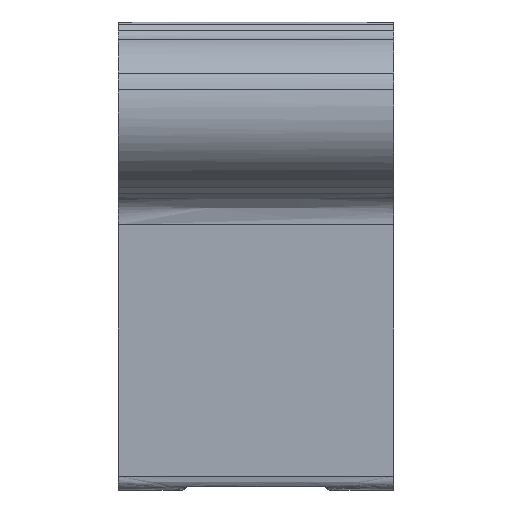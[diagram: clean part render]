
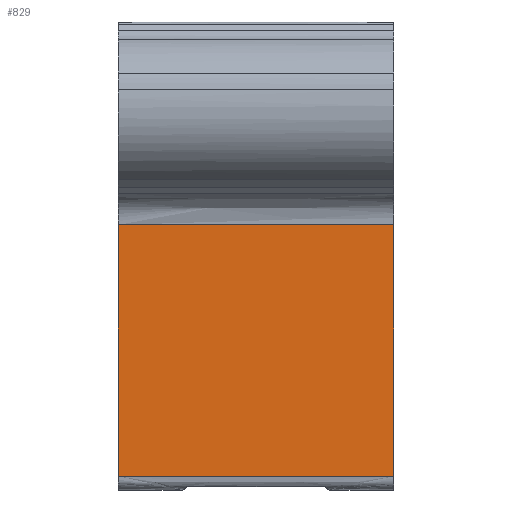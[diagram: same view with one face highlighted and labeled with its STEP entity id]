
A CAD part, front view. The second image highlights one B-rep face of the part: STEP entity #829.
In plain terms, the highlighted planar face has unit normal (0, -1, 0).
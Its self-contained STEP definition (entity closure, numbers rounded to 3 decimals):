
#21=PLANE('',#883);
#41=FACE_OUTER_BOUND('',#87,.T.);
#87=EDGE_LOOP('',(#617,#618,#619,#620));
#122=LINE('',#1032,#170);
#138=LINE('',#1871,#186);
#143=LINE('',#1917,#191);
#170=VECTOR('',#894,10.);
#186=VECTOR('',#918,10.);
#191=VECTOR('',#929,10.);
#264=B_SPLINE_CURVE_WITH_KNOTS('',3,(#1913,#1914,#1915,#1916),
 .UNSPECIFIED.,.F.,.F.,(4,4),(0.,4.),
 .UNSPECIFIED.);
#304=VERTEX_POINT('',#1014);
#305=VERTEX_POINT('',#1031);
#356=VERTEX_POINT('',#1857);
#358=VERTEX_POINT('',#1912);
#392=EDGE_CURVE('',#304,#305,#122,.T.);
#452=EDGE_CURVE('',#304,#356,#138,.T.);
#458=EDGE_CURVE('',#358,#356,#264,.T.);
#459=EDGE_CURVE('',#305,#358,#143,.T.);
#617=ORIENTED_EDGE('',*,*,#392,.F.);
#618=ORIENTED_EDGE('',*,*,#452,.T.);
#619=ORIENTED_EDGE('',*,*,#458,.F.);
#620=ORIENTED_EDGE('',*,*,#459,.F.);
#829=ADVANCED_FACE('',(#41),#21,.T.);
#883=AXIS2_PLACEMENT_3D('',#1911,#927,#928);
#894=DIRECTION('',(-1.,0.,0.));
#918=DIRECTION('',(0.,0.,1.));
#927=DIRECTION('center_axis',(0.,-1.,0.));
#928=DIRECTION('ref_axis',(0.,0.,1.));
#929=DIRECTION('',(0.,0.,1.));
#1014=CARTESIAN_POINT('',(60.,-10.78,-59.416));
#1031=CARTESIAN_POINT('',(20.,-10.78,-59.416));
#1032=CARTESIAN_POINT('',(60.,-10.78,-59.416));
#1857=CARTESIAN_POINT('',(60.,-10.78,-22.895));
#1871=CARTESIAN_POINT('',(60.,-10.78,-61.416));
#1911=CARTESIAN_POINT('Origin',(60.,-10.78,-61.416));
#1912=CARTESIAN_POINT('',(20.,-10.78,-22.895));
#1913=CARTESIAN_POINT('Ctrl Pts',(20.,-10.78,-22.895));
#1914=CARTESIAN_POINT('Ctrl Pts',(33.333,-10.78,-22.895));
#1915=CARTESIAN_POINT('Ctrl Pts',(46.667,-10.78,-22.895));
#1916=CARTESIAN_POINT('Ctrl Pts',(60.,-10.78,-22.895));
#1917=CARTESIAN_POINT('',(20.,-10.78,-61.416));
